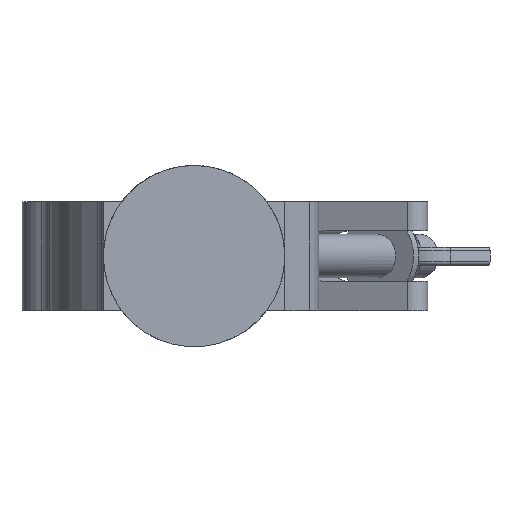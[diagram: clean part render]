
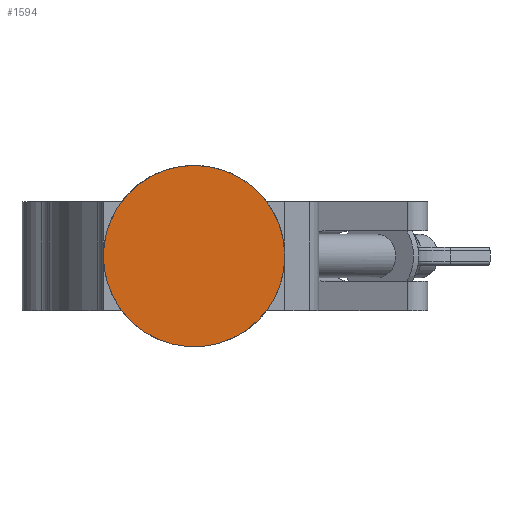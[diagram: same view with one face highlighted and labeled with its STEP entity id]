
A CAD part, front view. The second image highlights one B-rep face of the part: STEP entity #1594.
In plain terms, the highlighted planar face has unit normal (0, -1, 0).
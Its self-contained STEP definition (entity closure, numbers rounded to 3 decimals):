
#122=PLANE('',#1773);
#199=FACE_OUTER_BOUND('',#284,.T.);
#284=EDGE_LOOP('',(#1375,#1376));
#355=CIRCLE('',#1774,25.);
#356=CIRCLE('',#1775,25.);
#712=VERTEX_POINT('',#2856);
#713=VERTEX_POINT('',#2857);
#936=EDGE_CURVE('',#712,#713,#355,.T.);
#937=EDGE_CURVE('',#713,#712,#356,.T.);
#1375=ORIENTED_EDGE('',*,*,#936,.T.);
#1376=ORIENTED_EDGE('',*,*,#937,.T.);
#1594=ADVANCED_FACE('',(#199),#122,.T.);
#1773=AXIS2_PLACEMENT_3D('',#2855,#2196,#2197);
#1774=AXIS2_PLACEMENT_3D('',#2858,#2198,#2199);
#1775=AXIS2_PLACEMENT_3D('',#2859,#2200,#2201);
#2196=DIRECTION('center_axis',(0.,-1.,0.));
#2197=DIRECTION('ref_axis',(0.707,0.,0.707));
#2198=DIRECTION('center_axis',(0.,-1.,0.));
#2199=DIRECTION('ref_axis',(1.,0.,0.));
#2200=DIRECTION('center_axis',(0.,-1.,0.));
#2201=DIRECTION('ref_axis',(1.,0.,0.));
#2855=CARTESIAN_POINT('Origin',(-17.678,-92.,17.678));
#2856=CARTESIAN_POINT('',(25.,-92.,0.));
#2857=CARTESIAN_POINT('',(17.678,-92.,-17.678));
#2858=CARTESIAN_POINT('Origin',(0.,-92.,0.));
#2859=CARTESIAN_POINT('Origin',(0.,-92.,0.));
